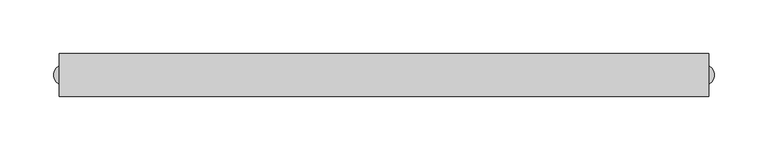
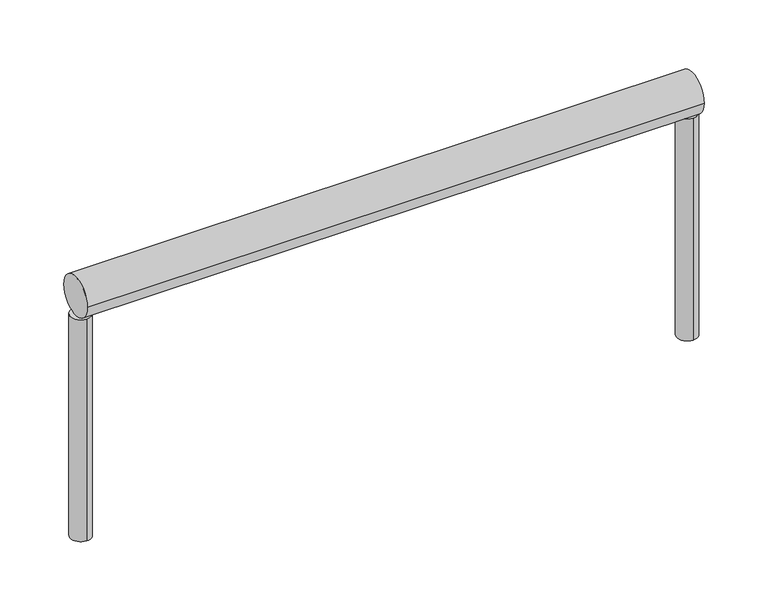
"""IFC4 building model written with IfcOpenShell, lengths in millimetres: railing geometry, Geländer-1."""

from ifc_helpers import new_model, si_unit, point, frame, frame_2d, origin, place, context, project, spatial, circle_curve, trimmed, segment, composite_curve, outline, extrude, source, transform, mapped, element, save


def railing_5f183d00(model_context):
    return source(origin(), model_context, "Body", "SweptSolid", [
        extrude(outline(composite_curve([segment(trimmed(circle_curve(frame_2d((10722.6032125, 1750.0)), 20.0), [point((10702.6032125, 1750.0))], [point((10742.6032125, 1750.0))], False, "CARTESIAN"), True, "CONTINUOUS"), segment(trimmed(circle_curve(frame_2d((10722.6032125, 1750.0)), 20.0), [point((10742.6032125, 1750.0))], [point((10702.6032125, 1750.0))], False, "CARTESIAN"), True, "CONTINUOUS")], self_intersect=False)), frame((761.534665, 0.0, 0.0), z_axis=(1.0, 0.0, 0.0), x_axis=(0.0, 1.0, 0.0)), (0.0, 0.0, 1.0), 605.0),
        extrude(outline(composite_curve([segment(trimmed(circle_curve(frame_2d((766.534665, 10722.6032125)), 10.0), [point((766.534665, 10712.6032125))], [point((766.534665, 10732.6032125))], False, "CARTESIAN"), True, "CONTINUOUS"), segment(trimmed(circle_curve(frame_2d((766.534665, 10722.6032125)), 10.0), [point((766.534665, 10732.6032125))], [point((766.534665, 10712.6032125))], False, "CARTESIAN"), True, "CONTINUOUS")], self_intersect=False)), frame((0.0, 0.0, 1500.0), z_axis=(0.0, 0.0, 1.0), x_axis=(1.0, 0.0, 0.0)), (0.0, 0.0, 1.0), 230.0),
        extrude(outline(composite_curve([segment(trimmed(circle_curve(frame_2d((1361.534665, 10722.6032125)), 10.0), [point((1361.534665, 10712.6032125))], [point((1361.534665, 10732.6032125))], False, "CARTESIAN"), True, "CONTINUOUS"), segment(trimmed(circle_curve(frame_2d((1361.534665, 10722.6032125)), 10.0), [point((1361.534665, 10732.6032125))], [point((1361.534665, 10712.6032125))], False, "CARTESIAN"), True, "CONTINUOUS")], self_intersect=False)), frame((0.0, 0.0, 1500.0), z_axis=(0.0, 0.0, 1.0), x_axis=(1.0, 0.0, 0.0)), (0.0, 0.0, 1.0), 230.0),
    ])


if __name__ == "__main__":
    model = new_model("IFC4")
    model_context = context("Model", 3, world=origin())
    ifc_project = project(units=[si_unit("LENGTHUNIT", "METRE", prefix="MILLI")], contexts=[model_context])
    site = spatial("IfcSite", under=ifc_project)
    building = spatial("IfcBuilding", under=site)
    placement = place(None, origin())
    railing_shape = railing_5f183d00(model_context)
    element("IfcRailing", 1, ObjectType="Geländer-1", at=placement, inside=building, context=model_context, shape_type="MappedRepresentation", body=[
        mapped(railing_shape, transform((0.0, 0.0, 0.0), x_axis=(1.0, 0.0, 0.0), y_axis=(0.0, 1.0, 0.0), z_axis=(0.0, 0.0, 1.0))),
    ])
    save(model, "model.ifc")
